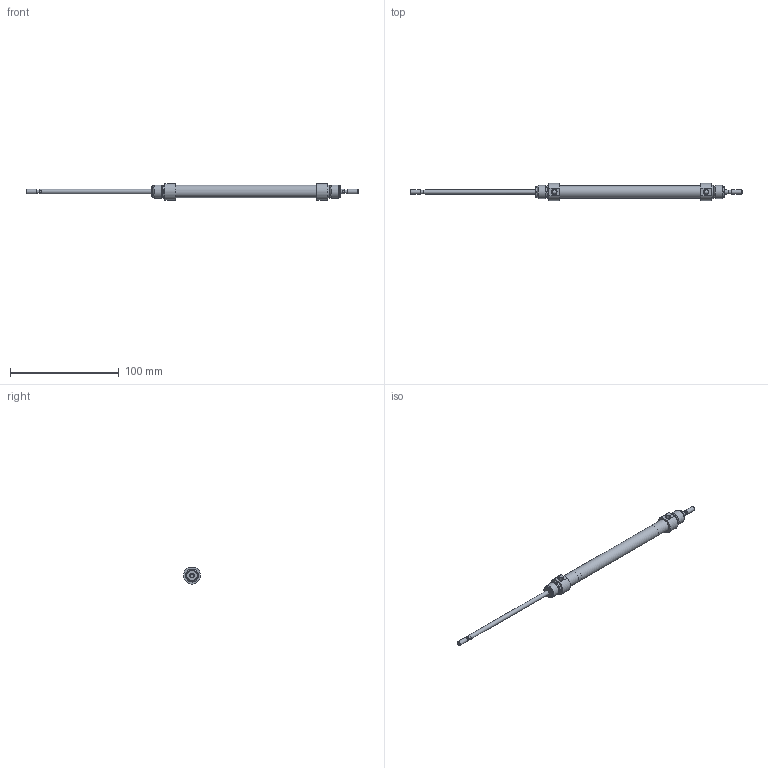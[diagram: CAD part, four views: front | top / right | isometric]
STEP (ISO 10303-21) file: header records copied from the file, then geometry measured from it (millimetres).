
FILE_DESCRIPTION( ( 'STEP AP203' ), '1' );
FILE_NAME( '//expscmdclustefs.cadenas.external/client_exchange/iodir/jobs/output/wkb68274514_no0/STEP/M101-010-0100-M__0__2_03.stp', ' ', ( ' ' ), ( ' ' ), 'PSStep 15.0.47', 'PARTsolutions', ' ' );
FILE_SCHEMA( ( 'CONFIG_CONTROL_DESIGN' ) );
Length unit declared in the file: millimetre
Products named in the file (3): M101-010-0100-M [0]; HI_M101-010-0100-M-[0]-z; HI_M101-010-0100-M-[0]-k
Assembly tree (2 placements, depth 2):
  M101-010-0100-M [0]
    HI_M101-010-0100-M-[0]-z
    HI_M101-010-0100-M-[0]-k
Bounding box: 306 x 15.77 x 14.87 mm (x, y, z)
Volume: 14297.9 mm3; surface area: 15483.6 mm2
Topology: 2 solids, 2 shells, 71 faces, 145 edges, 88 vertices
Faces by surface type: plane 32, cylinder 23, cone 14, torus 2
Full cylindrical faces by diameter (mm): 3.141 x2, 4 x6, 4.134 x2, 10 x2, 10.466 x4, 11.3 x1, 12 x4
Entity records: 1838 total; most frequent: CARTESIAN_POINT 358, DIRECTION 312, ORIENTED_EDGE 212, AXIS2_PLACEMENT_3D 140, EDGE_LOOP 120, EDGE_CURVE 106, FACE_OUTER_BOUND 94, VERTEX_POINT 82
